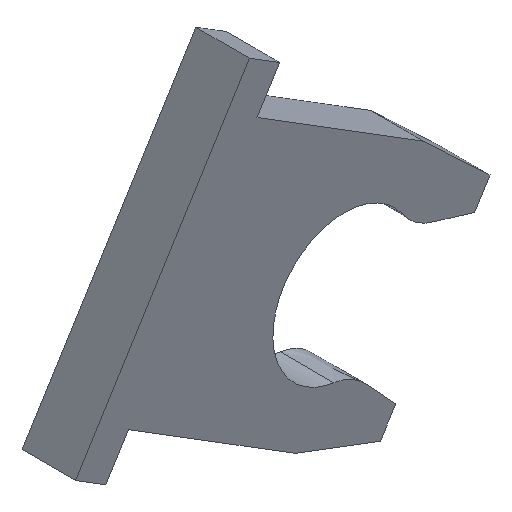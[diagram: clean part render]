
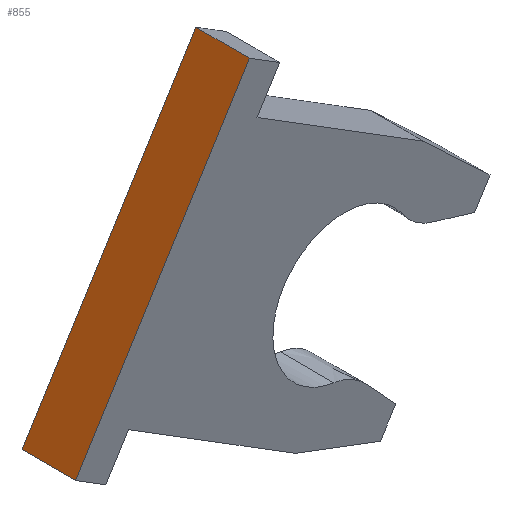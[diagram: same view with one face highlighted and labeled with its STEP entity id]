
A CAD part, isometric view. The second image highlights one B-rep face of the part: STEP entity #855.
In plain terms, the highlighted planar face has unit normal (-0.849, 0, 0.529).
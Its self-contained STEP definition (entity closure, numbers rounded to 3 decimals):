
#842=AXIS2_PLACEMENT_3D('Plane Axis2P3D',#839,#840,#841) ;
#220=CARTESIAN_POINT('Vertex',(-186.746,-1318.23,341.363)) ;
#223=CARTESIAN_POINT('Line Origine',(-184.313,-1318.23,345.267)) ;
#227=CARTESIAN_POINT('Vertex',(-181.88,-1318.23,349.171)) ;
#302=CARTESIAN_POINT('Vertex',(-186.746,-1319.73,341.363)) ;
#432=CARTESIAN_POINT('Vertex',(-181.88,-1319.73,349.171)) ;
#435=CARTESIAN_POINT('Line Origine',(-184.313,-1319.73,345.267)) ;
#472=CARTESIAN_POINT('Line Origine',(-186.746,-1318.98,341.363)) ;
#839=CARTESIAN_POINT('Axis2P3D Location',(-183.784,-1316.23,346.116)) ;
#844=CARTESIAN_POINT('Line Origine',(-181.88,-1318.98,349.171)) ;
#224=DIRECTION('Vector Direction',(0.529,0.,0.849)) ;
#436=DIRECTION('Vector Direction',(-0.529,0.,-0.849)) ;
#473=DIRECTION('Vector Direction',(0.,-1.,0.)) ;
#840=DIRECTION('Axis2P3D Direction',(-0.849,0.,0.529)) ;
#841=DIRECTION('Axis2P3D XDirection',(0.,-1.,0.)) ;
#845=DIRECTION('Vector Direction',(0.,1.,0.)) ;
#225=VECTOR('Line Direction',#224,1.) ;
#437=VECTOR('Line Direction',#436,1.) ;
#474=VECTOR('Line Direction',#473,1.) ;
#846=VECTOR('Line Direction',#845,1.) ;
#850=ORIENTED_EDGE('',*,*,#439,.F.) ;
#851=ORIENTED_EDGE('',*,*,#848,.T.) ;
#852=ORIENTED_EDGE('',*,*,#229,.F.) ;
#853=ORIENTED_EDGE('',*,*,#476,.T.) ;
#855=ADVANCED_FACE('MANIFOLD_SOLID_BREP #677',(#854),#843,.T.) ;
#229=EDGE_CURVE('',#221,#228,#226,.T.) ;
#439=EDGE_CURVE('',#433,#303,#438,.T.) ;
#476=EDGE_CURVE('',#221,#303,#475,.T.) ;
#848=EDGE_CURVE('',#433,#228,#847,.T.) ;
#849=EDGE_LOOP('',(#850,#851,#852,#853)) ;
#854=FACE_OUTER_BOUND('',#849,.T.) ;
#226=LINE('Line',#223,#225) ;
#438=LINE('Line',#435,#437) ;
#475=LINE('Line',#472,#474) ;
#847=LINE('Line',#844,#846) ;
#843=PLANE('',#842) ;
#221=VERTEX_POINT('',#220) ;
#228=VERTEX_POINT('',#227) ;
#303=VERTEX_POINT('',#302) ;
#433=VERTEX_POINT('',#432) ;
